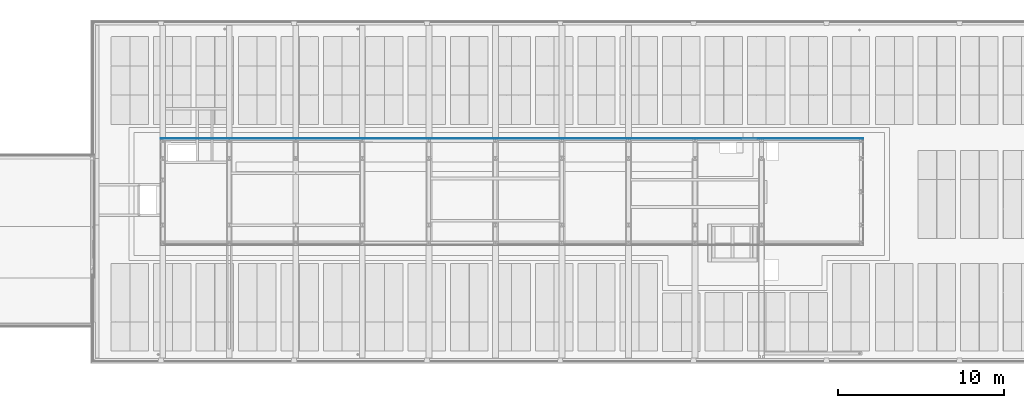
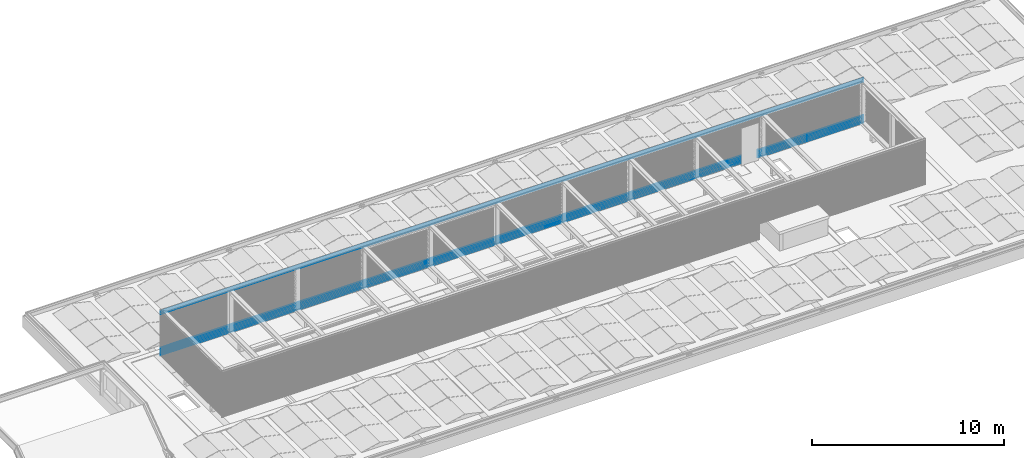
# One storey, part 49 of 63: 9 building element parts, 1 opening, 1 element without a shape of its own.
"""IFC2X3 building model written with IfcOpenShell, lengths in millimetres."""

from ifc_helpers import new_model, entity, si_unit, converted_unit, derived_unit, money_unit, direction, frame, origin_with_axes, place, context, subcontext, project, spatial, faceted_brep, material, type_object, element, aggregate, save


model = new_model("IFC2X3")

# Units and contexts
model_context = context("Model", 3, precision=0.01, world=origin_with_axes(), true_north=direction((0.0, 1.0)))
body_context = subcontext(model_context, "Body", "Model", "MODEL_VIEW")
ifc_project = project(units=[si_unit("LENGTHUNIT", "METRE", prefix="MILLI"), si_unit("AREAUNIT", "SQUARE_METRE"), si_unit("VOLUMEUNIT", "CUBIC_METRE"), converted_unit("PLANEANGLEUNIT", "DEGREE", entity("IfcPlaneAngleMeasure", 0.0174532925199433), si_unit("PLANEANGLEUNIT", "RADIAN"), dimensions=[0, 0, 0, 0, 0, 0, 0]), money_unit("EUR"), converted_unit("TIMEUNIT", "Year", entity("IfcTimeMeasure", 31557600.0), si_unit("TIMEUNIT", "SECOND"), dimensions=[0, 0, 1, 0, 0, 0, 0]), si_unit("MASSUNIT", "GRAM", prefix="KILO"), si_unit("THERMODYNAMICTEMPERATUREUNIT", "DEGREE_CELSIUS"), si_unit("LUMINOUSINTENSITYUNIT", "LUMEN"), si_unit("ENERGYUNIT", "JOULE", prefix="MEGA"), derived_unit("THERMALCONDUCTANCEUNIT", [(si_unit("POWERUNIT", "WATT"), 1), (si_unit("LENGTHUNIT", "METRE"), -1), (si_unit("THERMODYNAMICTEMPERATUREUNIT", "KELVIN"), -1)]), derived_unit("SPECIFICHEATCAPACITYUNIT", [(si_unit("ENERGYUNIT", "JOULE"), 1), (si_unit("MASSUNIT", "GRAM", prefix="KILO"), -1), (si_unit("THERMODYNAMICTEMPERATUREUNIT", "KELVIN"), -1)]), derived_unit("MASSDENSITYUNIT", [(si_unit("MASSUNIT", "GRAM", prefix="KILO"), 1), (si_unit("VOLUMEUNIT", "CUBIC_METRE"), -1)])], contexts=[model_context])

# Site, building, storey
site_placement = place(None, origin_with_axes())
site = spatial("IfcSite", under=ifc_project, at=site_placement, Name="<site naam>", CompositionType="ELEMENT")
building_placement = place(site_placement, origin_with_axes())
building = spatial("IfcBuilding", under=site, at=building_placement, Name="<Naam gebouw>", CompositionType="ELEMENT")
storey_placement = place(building_placement, frame((0.0, 0.0, 12770.0), z_axis=(0.0, 0.0, 1.0), x_axis=(1.0, 0.0, 0.0)))
storey = spatial("IfcBuildingStorey", under=building, at=storey_placement, Name="04 4e verdieping", CompositionType="ELEMENT", Elevation=12770.0)

# Wall, opening, building element parts
wall_type = type_object("IfcWallType", Name="Gevelbeplating golf 18 x 2900", PredefinedType="NOTDEFINED")
wall_placement = place(storey_placement, frame((58128.00007858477, 13218.00009009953, 299.9552842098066), z_axis=(0.0, 0.0, 1.0), x_axis=(-1.0, 0.0, 0.0)))
wall = element("IfcWall", 1, at=wall_placement, inside=storey, type_object=wall_type, Name="47_Binnenwand_Gevelbeplating")
opening_placement = place(wall_placement, frame((6856.073474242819, 0.0, -120.0392154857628), z_axis=(0.0, 0.0, 1.0), x_axis=(1.0, 0.0, 0.0)))
element("IfcOpeningElement", 2, at=opening_placement, cuts=wall, Name="47_BU-F-02_305", context=body_context, shape_type="Brep", body=[
    faceted_brep([(517.000000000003, 19.00000000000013, 2367.000000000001), (517.000000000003, 19.00000000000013, 0.0), (-517.000000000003, 19.00000000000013, 0.0), (-517.000000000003, 19.00000000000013, 2367.000000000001), (517.000000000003, -1.000078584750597, 2367.000000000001), (517.000000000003, -1.000078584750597, 0.0), (-517.000000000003, -1.000078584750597, 0.0), (-517.000000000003, -1.000078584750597, 2367.000000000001)], [[[0, 1, 2, 3]], [[4, 5, 1, 0]], [[5, 6, 2, 1]], [[6, 7, 3, 2]], [[7, 4, 0, 3]], [[6, 5, 4, 7]]]),
])
ifc_material = material(Name="gevelafwerking type 3 - Aluminium RAL1036")
building_element_part_1_placement = place(wall_placement, origin_with_axes())
building_element_part_1 = element("IfcBuildingElementPart", 3, at=building_element_part_1_placement, material=ifc_material, Name="gevelafwerking type 3 - Aluminium RAL1036", context=body_context, shape_type="Brep", body=[
    faceted_brep([(18238.00007858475, 15.6291890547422, 2670.6844886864), (18238.00007858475, 10.1433027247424, 2677.962412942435), (18018.00007858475, 10.1433027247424, 2677.962412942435), (18018.00007858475, 15.6291890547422, 2670.6844886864), (15.6291890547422, 15.6291890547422, 2670.6844886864), (9.041509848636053, 9.04150984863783, 2679.424121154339), (42247.79070176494, 9.041509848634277, 2679.424121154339), (42247.44499411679, 9.398060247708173, 2678.951098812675), (42241.45604468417, 15.62918905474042, 2670.6844886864), (18238.00007858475, 17.99992617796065, 2659.999994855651), (18238.00007858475, 16.99992379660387, 2659.999994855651), (18238.00007858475, 14.77512327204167, 2670.365674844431), (18238.00007858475, 10.1433027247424, 2676.759003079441), (18018.00007858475, 10.1433027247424, 2676.759003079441), (18018.00007858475, 14.77512327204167, 2670.365674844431), (18018.00007858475, 16.99992379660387, 2659.999994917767), (18018.00007858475, 17.99992617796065, 2659.999994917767), (17.9999261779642, 17.99992617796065, 2659.999999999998), (15.6291890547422, 14.54414983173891, 2670.6844886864), (9.398060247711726, 8.555178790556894, 2678.951098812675), (9.041509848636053, 8.209465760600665, 2679.424121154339), (42253.7428684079, 3.340061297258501, 2687.568198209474), (3.116404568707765, 3.116404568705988, 2687.887674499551), (42253.8119968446, 3.116404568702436, 2687.887674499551), (42253.7428684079, 2.257284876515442, 2687.568198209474), (42247.44499411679, 8.555178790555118, 2678.951098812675), (42241.22507213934, 14.77512327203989, 2670.365674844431), (42241.22507213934, 15.69992934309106, 2670.365674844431), (42239.00027300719, 17.99992617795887, 2659.99998807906), (42239.00027300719, 16.99992379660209, 2659.99998807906), (15.69992934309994, 14.77512327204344, 2670.365674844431), (17.9999261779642, 16.99992379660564, 2659.999999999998), (3.340061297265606, 2.257284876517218, 2687.568198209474), (3.116404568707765, 2.188152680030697, 2687.887674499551), (42256.00025512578, 0.999926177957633, 2698.000001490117), (0.9999261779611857, 0.9999261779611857, 2697.999999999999), (42256.00025512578, -7.382204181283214e-05, 2698.000001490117), (0.9999261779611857, -7.382203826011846e-05, 2697.999999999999)], [[[0, 1, 2, 3, 4, 5, 6, 7, 8]], [[1, 0, 9, 10, 11, 12]], [[2, 1, 12, 13]], [[3, 2, 13, 14, 15, 16]], [[3, 16, 17, 4]], [[4, 18, 19, 20, 5]], [[21, 6, 5, 22, 23]], [[24, 25, 7, 6, 21]], [[25, 26, 27, 8, 7]], [[9, 0, 8, 27, 28]], [[10, 9, 28, 29]], [[11, 10, 29, 26]], [[12, 11, 26, 25, 19, 18, 30, 14, 13]], [[15, 14, 30, 31]], [[16, 15, 31, 17]], [[17, 31, 30, 18, 4]], [[24, 32, 20, 19, 25]], [[5, 20, 32, 33, 22]], [[34, 23, 22, 35]], [[36, 24, 21, 23, 34]], [[27, 26, 29, 28]], [[36, 37, 33, 32, 24]], [[35, 22, 33, 37]], [[36, 34, 35, 37]]]),
])
building_element_part_2_placement = place(wall_placement, origin_with_axes())
building_element_part_2 = element("IfcBuildingElementPart", 4, at=building_element_part_2_placement, material=ifc_material, Name="gevelafwerking type 3 - Aluminium RAL1036", context=body_context, shape_type="Brep", body=[
    faceted_brep([(18238.00007858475, 15.62918429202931, 2822.684488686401), (18238.00007858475, 10.1433027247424, 2829.962406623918), (18018.00007858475, 10.1433027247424, 2829.962406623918), (18018.00007858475, 15.62918429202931, 2822.684488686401), (15.62918429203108, 15.62918429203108, 2822.684488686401), (9.041505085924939, 9.041505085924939, 2831.42412115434), (42247.79070118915, 9.041505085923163, 2831.42412115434), (42247.44499411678, 9.398047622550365, 2830.951109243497), (42241.4560371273, 15.62918429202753, 2822.684488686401), (18238.00007858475, 17.99992141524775, 2811.999999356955), (18238.00007858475, 16.99991903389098, 2811.999999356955), (18238.00007858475, 14.77511850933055, 2822.365685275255), (18238.00007858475, 10.1433027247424, 2828.759006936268), (18018.00007858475, 10.1433027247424, 2828.759006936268), (18018.00007858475, 14.77511850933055, 2822.365685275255), (18018.00007858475, 16.99991903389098, 2811.999999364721), (18018.00007858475, 17.99992141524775, 2811.999999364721), (17.99992141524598, 17.99992141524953, 2812.0), (15.62918429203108, 14.54415262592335, 2822.684488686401), (9.398047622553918, 8.55517402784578, 2830.951109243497), (9.041505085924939, 8.209468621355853, 2831.42412115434), (42253.74291629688, 3.340049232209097, 2839.568208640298), (3.11639980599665, 3.116399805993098, 2839.88767449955), (42253.81204554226, 3.116399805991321, 2839.88767449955), (42253.74291629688, 2.257280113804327, 2839.568208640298), (42247.44499411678, 8.555174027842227, 2830.951109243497), (42241.22507213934, 15.69992226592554, 2822.365685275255), (42241.22507213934, 14.77511850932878, 2822.365685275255), (42239.00027300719, 17.99992141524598, 2811.999998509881), (42239.00027300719, 16.9999190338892, 2811.999998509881), (15.69992226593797, 14.77511850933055, 2822.365685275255), (17.99992141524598, 16.99991903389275, 2812.0), (3.340049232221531, 2.257280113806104, 2839.568208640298), (3.11639980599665, 2.188150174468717, 2839.88767449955), (42256.00025512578, 0.9999214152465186, 2850.00001192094), (0.9999214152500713, 0.9999214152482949, 2850.0), (42256.00025512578, -7.858475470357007e-05, 2850.00001192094), (0.9999214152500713, -7.858475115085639e-05, 2850.0)], [[[0, 1, 2, 3, 4, 5, 6, 7, 8]], [[1, 0, 9, 10, 11, 12]], [[2, 1, 12, 13]], [[3, 2, 13, 14, 15, 16]], [[3, 16, 17, 4]], [[4, 18, 19, 20, 5]], [[21, 6, 5, 22, 23]], [[7, 6, 21, 24, 25]], [[26, 8, 7, 25, 27]], [[9, 0, 8, 26, 28]], [[10, 9, 28, 29]], [[11, 10, 29, 27]], [[12, 11, 27, 25, 19, 18, 30, 14, 13]], [[15, 14, 30, 31]], [[16, 15, 31, 17]], [[17, 31, 30, 18, 4]], [[24, 32, 20, 19, 25]], [[5, 20, 32, 33, 22]], [[34, 23, 22, 35]], [[21, 23, 34, 36, 24]], [[29, 28, 26, 27]], [[36, 37, 33, 32, 24]], [[35, 22, 33, 37]], [[36, 34, 35, 37]]]),
])
building_element_part_3_placement = place(wall_placement, origin_with_axes())
building_element_part_3 = element("IfcBuildingElementPart", 5, at=building_element_part_3_placement, material=ifc_material, Name="gevelafwerking type 3 - Aluminium RAL1036", context=body_context, shape_type="Brep", body=[
    faceted_brep([(18132.75007858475, 14.7751970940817, 65.634296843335), (18132.75007858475, 10.14329121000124, 59.24085081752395), (18123.25007858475, 10.14329121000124, 59.24085081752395), (18123.25007858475, 14.7751970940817, 65.634296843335), (15.69999688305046, 14.7751970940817, 65.634296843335), (15.62926287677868, 14.5442457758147, 65.31551131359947), (9.398112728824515, 8.555252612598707, 57.04887287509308), (42247.44490768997, 8.555252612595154, 57.04887287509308), (42241.22498571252, 14.77519709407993, 65.634296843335), (18132.75007858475, 16.9999976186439, 75.99999296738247), (18132.75007858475, 17.99999999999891, 75.99999296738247), (18132.75007858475, 15.62926287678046, 65.31551131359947), (18132.75007858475, 10.14329121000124, 58.03747384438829), (18123.25007858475, 10.14329121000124, 58.03747384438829), (18123.25007858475, 15.62926287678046, 65.31551131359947), (18123.25007858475, 17.99999999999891, 75.99999297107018), (18123.25007858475, 16.9999976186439, 75.99999297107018), (18.00000000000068, 16.9999976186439, 76.00000000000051), (15.62926287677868, 15.62926287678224, 65.31551131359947), (18.00000000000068, 18.00000000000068, 76.00000000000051), (9.041583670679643, 9.04158367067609, 56.57587884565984), (9.041583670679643, 8.209558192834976, 56.57587884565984), (3.340115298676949, 2.257358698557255, 48.43177347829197), (42253.74282987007, 2.257358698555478, 48.43177347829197), (42241.45593774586, 15.62926287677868, 65.31551131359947), (42241.22498571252, 15.69999688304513, 65.634296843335), (42247.44490768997, 9.398112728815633, 57.04887287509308), (42239.00018658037, 16.99999761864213, 75.99998360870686), (42239.00018658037, 17.99999999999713, 75.99998360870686), (42247.79060169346, 9.041583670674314, 56.57587884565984), (3.116478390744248, 3.116478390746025, 48.11232550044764), (3.116478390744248, 2.188226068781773, 48.11232550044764), (0.9999999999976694, 0.0, 38.00000000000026), (42256.00016869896, 0.0, 38.00001341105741), (42253.74282987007, 3.340115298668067, 48.43177347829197), (42253.81195553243, 3.116478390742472, 48.11232550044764), (0.9999999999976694, 0.9999999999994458, 38.00000000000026), (42256.00016869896, 0.9999999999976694, 38.00001341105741)], [[[0, 1, 2, 3, 4, 5, 6, 7, 8]], [[1, 0, 9, 10, 11, 12]], [[2, 1, 12, 13]], [[3, 2, 13, 14, 15, 16]], [[3, 16, 17, 4]], [[18, 5, 4, 17, 19]], [[20, 21, 6, 5, 18]], [[6, 21, 22, 23, 7]], [[24, 25, 8, 7, 26]], [[9, 0, 8, 27]], [[10, 9, 27, 28]], [[11, 10, 28, 25, 24]], [[12, 11, 24, 26, 29, 20, 18, 14, 13]], [[15, 14, 18, 19]], [[16, 15, 19, 17]], [[30, 31, 22, 21, 20]], [[23, 22, 31, 32, 33]], [[29, 26, 7, 23, 34]], [[25, 28, 27, 8]], [[35, 30, 20, 29, 34]], [[30, 36, 32, 31]], [[33, 32, 36, 37]], [[35, 34, 23, 33, 37]], [[37, 36, 30, 35]]]),
])
building_element_part_4_placement = place(wall_placement, origin_with_axes())
building_element_part_4 = element("IfcBuildingElementPart", 6, at=building_element_part_4_placement, material=ifc_material, Name="gevelafwerking type 3 - Aluminium RAL1036", context=body_context, shape_type="Brep", body=[
    faceted_brep([(18132.75007858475, 14.77519471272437, 141.6343236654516), (18132.75007858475, 10.14329121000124, 135.2408809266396), (18123.25007858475, 10.14329121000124, 135.2408809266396), (18123.25007858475, 14.77519471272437, 141.6343236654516), (15.70000045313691, 14.77519471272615, 141.6343236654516), (15.62926049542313, 14.54422396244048, 141.3155113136), (9.398130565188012, 8.555250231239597, 133.0488996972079), (42247.44490768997, 8.555250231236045, 133.0488996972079), (42241.22498571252, 14.77519471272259, 141.6343236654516), (18132.75007858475, 16.99999523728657, 152.0000044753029), (18132.75007858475, 17.99999761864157, 152.0000044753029), (18132.75007858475, 15.62926049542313, 141.3155113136), (18132.75007858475, 10.14329121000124, 134.0374770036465), (18123.25007858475, 10.14329121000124, 134.0374770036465), (18123.25007858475, 15.62926049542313, 141.3155113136), (18123.25007858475, 17.99999761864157, 152.0000044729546), (18123.25007858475, 16.99999523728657, 152.0000044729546), (17.99999761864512, 16.99999523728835, 151.9999999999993), (15.62926049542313, 15.6292604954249, 141.3155113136), (17.99999761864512, 17.99999761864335, 151.9999999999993), (9.041581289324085, 9.041581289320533, 132.5758788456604), (9.041581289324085, 8.209536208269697, 132.5758788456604), (3.340131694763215, 2.257356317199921, 124.4318003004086), (42253.74282519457, 2.257356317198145, 124.4318003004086), (42241.4559571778, 15.62926049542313, 141.3155113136), (42241.22498571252, 15.70000045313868, 141.6343236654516), (42247.44490768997, 9.398130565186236, 133.0488996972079), (42239.00018658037, 16.99999523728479, 152.0000104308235), (42239.00018658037, 17.99999761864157, 152.0000104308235), (42247.79061662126, 9.041581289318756, 132.5758788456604), (3.116476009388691, 3.116476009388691, 124.1123255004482), (3.116476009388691, 2.188227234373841, 124.1123255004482), (0.9999976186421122, -2.381355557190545e-06, 114.0000000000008), (42256.00016869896, -2.381359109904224e-06, 113.9999970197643), (42253.74282519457, 3.340131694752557, 124.4318003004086), (42253.8119519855, 3.116476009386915, 124.1123255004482), (0.9999976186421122, 0.9999976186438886, 114.0000000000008), (42256.00016869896, 0.9999976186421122, 113.9999970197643)], [[[0, 1, 2, 3, 4, 5, 6, 7, 8]], [[1, 0, 9, 10, 11, 12]], [[2, 1, 12, 13]], [[3, 2, 13, 14, 15, 16]], [[3, 16, 17, 4]], [[18, 5, 4, 17, 19]], [[20, 21, 6, 5, 18]], [[6, 21, 22, 23, 7]], [[24, 25, 8, 7, 26]], [[9, 0, 8, 27]], [[10, 9, 27, 28]], [[11, 10, 28, 25, 24]], [[12, 11, 24, 26, 29, 20, 18, 14, 13]], [[15, 14, 18, 19]], [[16, 15, 19, 17]], [[30, 31, 22, 21, 20]], [[23, 22, 31, 32, 33]], [[29, 26, 7, 23, 34]], [[25, 28, 27, 8]], [[35, 30, 20, 29, 34]], [[30, 36, 32, 31]], [[33, 32, 36, 37]], [[35, 34, 23, 33, 37]], [[37, 36, 30, 35]]]),
])
building_element_part_5_placement = place(wall_placement, origin_with_axes())
building_element_part_5 = element("IfcBuildingElementPart", 7, at=building_element_part_5_placement, material=ifc_material, Name="gevelafwerking type 3 - Aluminium RAL1036", context=body_context, shape_type="Brep", body=[
    faceted_brep([(18132.75007858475, 14.77519233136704, 217.6343072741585), (18132.75007858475, 10.14329121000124, 211.2408678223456), (18123.25007858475, 10.14329121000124, 211.2408678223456), (18123.25007858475, 14.77519233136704, 217.6343072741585), (15.6999944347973, 14.77519233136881, 217.6343072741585), (15.62925811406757, 14.54423345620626, 217.3155113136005), (9.398115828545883, 8.55524784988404, 209.0488833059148), (42247.44490768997, 8.555247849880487, 209.0488833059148), (42241.22498571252, 14.77519233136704, 217.6343072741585), (18132.75007858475, 16.99999285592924, 227.9999974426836), (18132.75007858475, 17.99999523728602, 227.9999974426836), (18132.75007858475, 15.62925811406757, 217.3155113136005), (18132.75007858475, 10.14329121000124, 210.037480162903), (18123.25007858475, 10.14329121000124, 210.037480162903), (18123.25007858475, 15.62925811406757, 217.3155113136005), (18123.25007858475, 17.99999523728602, 227.9999974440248), (18123.25007858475, 16.99999285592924, 227.9999974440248), (17.99999523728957, 16.99999285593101, 227.9999999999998), (15.62925811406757, 15.62925811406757, 217.3155113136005), (17.99999523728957, 17.99999523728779, 227.9999999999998), (9.041578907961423, 9.041578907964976, 208.5758788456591), (9.041578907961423, 8.209545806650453, 208.5758788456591), (3.340117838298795, 2.257353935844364, 200.4317839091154), (42253.74282519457, 2.257353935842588, 200.4317839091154), (42241.45594530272, 15.62925811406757, 217.3155113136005), (42241.22498571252, 15.69999443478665, 217.6343072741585), (42247.44490768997, 9.398115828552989, 209.0488833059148), (42239.00018658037, 16.99999285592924, 227.9999940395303), (42239.00018658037, 17.99999523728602, 227.9999940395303), (42247.79060464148, 9.041578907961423, 208.5758788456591), (3.116473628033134, 3.116473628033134, 200.1123255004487), (3.116473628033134, 2.188228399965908, 200.1123255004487), (0.999995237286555, -4.76271289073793e-06, 189.9999999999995), (42256.00016402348, -4.76271466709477e-06, 189.9999806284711), (42253.74282519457, 3.340117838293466, 200.4317839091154), (42253.8119437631, 3.116473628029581, 200.1123255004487), (0.999995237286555, 0.9999952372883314, 189.9999999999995), (42256.00016402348, 0.9999952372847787, 189.9999806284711)], [[[0, 1, 2, 3, 4, 5, 6, 7, 8]], [[1, 0, 9, 10, 11, 12]], [[2, 1, 12, 13]], [[3, 2, 13, 14, 15, 16]], [[3, 16, 17, 4]], [[18, 5, 4, 17, 19]], [[20, 21, 6, 5, 18]], [[6, 21, 22, 23, 7]], [[24, 25, 8, 7, 26]], [[9, 0, 8, 27]], [[10, 9, 27, 28]], [[11, 10, 28, 25, 24]], [[12, 11, 24, 26, 29, 20, 18, 14, 13]], [[15, 14, 18, 19]], [[16, 15, 19, 17]], [[30, 31, 22, 21, 20]], [[23, 22, 31, 32, 33]], [[29, 26, 7, 23, 34]], [[25, 28, 27, 8]], [[35, 30, 20, 29, 34]], [[30, 36, 32, 31]], [[33, 32, 36, 37]], [[35, 34, 23, 33, 37]], [[37, 36, 30, 35]]]),
])
building_element_part_6_placement = place(wall_placement, origin_with_axes())
building_element_part_6 = element("IfcBuildingElementPart", 8, at=building_element_part_6_placement, material=ifc_material, Name="gevelafwerking type 3 - Aluminium RAL1036", context=body_context, shape_type="Brep", body=[
    faceted_brep([(18238.00007858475, 14.77518995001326, 293.6343340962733), (18238.00007858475, 10.1433027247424, 287.2409160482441), (18018.00007858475, 10.1433027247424, 287.2409160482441), (18018.00007858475, 14.77518995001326, 293.6343340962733), (15.69999800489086, 14.77518995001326, 293.6343340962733), (15.62925573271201, 14.54421164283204, 293.3155113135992), (9.398133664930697, 8.555245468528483, 285.0489101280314), (42247.44495090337, 8.555245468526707, 285.0489101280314), (42241.22498571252, 14.77518995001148, 293.6343340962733), (18238.00007858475, 16.99999047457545, 304.0000090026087), (18238.00007858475, 17.99999285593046, 304.0000090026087), (18238.00007858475, 15.62925573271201, 293.3155113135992), (18238.00007858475, 10.1433027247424, 286.0374985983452), (18018.00007858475, 10.1433027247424, 286.0374985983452), (18018.00007858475, 15.62925573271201, 293.3155113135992), (18018.00007858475, 17.99999285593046, 304.0000088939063), (18018.00007858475, 16.99999047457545, 304.0000088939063), (17.99999285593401, 16.99999047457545, 304.0000000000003), (17.99999285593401, 17.99999285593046, 304.0000000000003), (15.62925573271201, 15.62925573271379, 293.3155113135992), (9.041576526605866, 9.041576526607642, 284.5758788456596), (9.041576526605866, 8.209523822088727, 284.5758788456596), (3.340134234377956, 2.257351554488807, 276.4318107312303), (42253.74282519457, 2.25735155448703, 276.4318107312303), (42247.44495090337, 9.398133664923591, 285.0489101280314), (42241.45596633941, 15.62925573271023, 293.3155113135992), (42241.22498571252, 15.69999800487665, 293.6343340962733), (42239.00018658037, 16.99999047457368, 304.0000208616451), (42239.00018658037, 17.99999285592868, 304.0000208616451), (42247.79066508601, 9.041576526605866, 284.5758788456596), (3.116471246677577, 3.116471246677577, 276.1123255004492), (3.116471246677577, 2.188220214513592, 276.1123255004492), (42256.00016869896, -7.144070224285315e-06, 266.0000074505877), (0.9999928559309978, -7.144068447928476e-06, 266.0), (42253.74282519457, 3.34013423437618, 276.4318107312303), (42253.81195424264, 3.116471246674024, 276.1123255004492), (0.9999928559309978, 0.9999928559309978, 266.0), (42256.00016869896, 0.9999928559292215, 266.0000074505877)], [[[0, 1, 2, 3, 4, 5, 6, 7, 8]], [[1, 0, 9, 10, 11, 12]], [[2, 1, 12, 13]], [[3, 2, 13, 14, 15, 16]], [[3, 16, 17, 4]], [[18, 19, 5, 4, 17]], [[19, 20, 21, 6, 5]], [[7, 6, 21, 22, 23]], [[24, 25, 26, 8, 7]], [[9, 0, 8, 27]], [[10, 9, 27, 28]], [[11, 10, 28, 26, 25]], [[12, 11, 25, 24, 29, 20, 19, 14, 13]], [[15, 14, 19, 18]], [[16, 15, 18, 17]], [[20, 30, 31, 22, 21]], [[32, 23, 22, 31, 33]], [[34, 29, 24, 7, 23]], [[8, 26, 28, 27]], [[34, 35, 30, 20, 29]], [[31, 30, 36, 33]], [[37, 35, 34, 23, 32]], [[37, 32, 33, 36]], [[35, 37, 36, 30]]]),
])
building_element_part_7_placement = place(wall_placement, origin_with_axes())
building_element_part_7 = element("IfcBuildingElementPart", 9, at=building_element_part_7_placement, material=ifc_material, Name="gevelafwerking type 3 - Aluminium RAL1036", context=body_context, shape_type="Brep", body=[
    faceted_brep([(18238.00007858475, 14.7751875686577, 445.634301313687), (18238.00007858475, 10.1433027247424, 439.2408865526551), (18018.00007858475, 10.1433027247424, 439.2408865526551), (18018.00007858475, 14.7751875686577, 445.634301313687), (15.69998834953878, 14.7751875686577, 445.634301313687), (15.62925335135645, 14.5442330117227, 445.3155113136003), (9.398106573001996, 8.555243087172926, 437.0488773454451), (42247.44495090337, 8.55524308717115, 437.0488773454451), (42241.22498571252, 14.77518756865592, 445.634301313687), (18238.00007858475, 16.99998809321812, 455.9999948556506), (18238.00007858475, 17.9999904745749, 455.9999948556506), (18238.00007858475, 15.62925335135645, 445.3155113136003), (18238.00007858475, 10.1433027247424, 438.0375017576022), (18018.00007858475, 10.1433027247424, 438.0375017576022), (18018.00007858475, 15.62925335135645, 445.3155113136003), (18018.00007858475, 17.9999904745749, 455.9999949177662), (18018.00007858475, 16.99998809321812, 455.9999949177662), (17.99999047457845, 16.9999880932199, 455.9999999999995), (17.99999047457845, 17.9999904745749, 455.9999999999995), (15.62925335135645, 15.62925335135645, 445.3155113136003), (9.041574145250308, 9.041574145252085, 436.5758788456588), (9.041574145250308, 8.209545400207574, 436.5758788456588), (3.340108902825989, 2.25734917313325, 428.431777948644), (42253.74282987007, 2.257349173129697, 428.431777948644), (42247.44495090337, 9.398106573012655, 437.0488773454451), (42241.45594258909, 15.62925335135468, 445.3155113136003), (42241.22498571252, 15.69998834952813, 445.634301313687), (42239.00018658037, 16.99998809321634, 455.9999880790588), (42239.00018658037, 17.99999047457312, 455.9999880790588), (42247.79064580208, 9.041574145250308, 436.5758788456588), (3.11646886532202, 3.116468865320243, 428.1123255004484), (3.11646886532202, 2.188215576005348, 428.1123255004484), (42256.00016869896, -9.5254275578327e-06, 418.0000178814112), (0.9999904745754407, -9.525424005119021e-06, 417.9999999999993), (42253.74282987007, 3.340108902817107, 428.431777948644), (42253.81195649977, 3.116468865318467, 428.1123255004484), (0.9999904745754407, 0.9999904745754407, 417.9999999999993), (42256.00016869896, 0.9999904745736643, 418.0000178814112)], [[[0, 1, 2, 3, 4, 5, 6, 7, 8]], [[1, 0, 9, 10, 11, 12]], [[2, 1, 12, 13]], [[3, 2, 13, 14, 15, 16]], [[3, 16, 17, 4]], [[18, 19, 5, 4, 17]], [[19, 20, 21, 6, 5]], [[7, 6, 21, 22, 23]], [[24, 25, 26, 8, 7]], [[9, 0, 8, 27]], [[10, 9, 27, 28]], [[11, 10, 28, 26, 25]], [[12, 11, 25, 24, 29, 20, 19, 14, 13]], [[15, 14, 19, 18]], [[16, 15, 18, 17]], [[20, 30, 31, 22, 21]], [[32, 23, 22, 31, 33]], [[34, 29, 24, 7, 23]], [[8, 26, 28, 27]], [[34, 35, 30, 20, 29]], [[31, 30, 36, 33]], [[37, 35, 34, 23, 32]], [[37, 32, 33, 36]], [[35, 37, 36, 30]]]),
])
building_element_part_8_placement = place(wall_placement, origin_with_axes())
building_element_part_8 = element("IfcBuildingElementPart", 10, at=building_element_part_8_placement, material=ifc_material, Name="gevelafwerking type 3 - Aluminium RAL1036", context=body_context, shape_type="Brep", body=[
    faceted_brep([(18238.00007858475, 14.77518518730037, 521.6343281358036), (18238.00007858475, 10.1433027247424, 515.2409166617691), (18018.00007858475, 10.1433027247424, 515.2409166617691), (18018.00007858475, 14.77518518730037, 521.6343281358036), (15.69999191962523, 14.77518518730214, 521.6343281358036), (15.6292509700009, 14.5442111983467, 521.315511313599), (9.398124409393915, 8.555240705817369, 513.0489041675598), (42247.44495090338, 8.555240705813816, 513.0489041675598), (42241.22498571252, 14.77518518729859, 521.6343281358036), (18238.00007858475, 16.99998571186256, 532.0000064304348), (18238.00007858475, 17.99998809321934, 532.0000064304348), (18238.00007858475, 15.6292509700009, 521.315511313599), (18238.00007858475, 10.1433027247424, 514.0375049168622), (18018.00007858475, 10.1433027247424, 514.0375049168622), (18018.00007858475, 15.6292509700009, 521.315511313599), (18018.00007858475, 17.99998809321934, 532.0000063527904), (18018.00007858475, 16.99998571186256, 532.0000063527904), (17.9999880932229, 16.99998571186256, 532.0), (17.9999880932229, 17.99998809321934, 532.0), (15.6292509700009, 15.6292509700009, 521.315511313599), (9.041571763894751, 9.041571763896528, 512.5758788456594), (9.041571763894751, 8.209523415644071, 512.5758788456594), (3.340125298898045, 2.257346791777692, 504.4318047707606), (42253.74282519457, 2.25734679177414, 504.4318047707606), (42247.44495090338, 9.398124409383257, 513.0489041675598), (42241.45596202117, 15.62925096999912, 521.315511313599), (42241.22498571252, 15.69999191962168, 521.6343281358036), (42239.00018658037, 16.99998571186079, 532.0000149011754), (42239.00018658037, 17.99998809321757, 532.0000149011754), (42247.79066072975, 9.041571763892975, 512.5758788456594), (3.116466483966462, 3.116466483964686, 504.1123255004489), (3.116466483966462, 2.188216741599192, 504.1123255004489), (42256.00016869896, -1.190678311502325e-05, 494.0000014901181), (0.9999880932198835, -1.190678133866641e-05, 493.9999999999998), (42253.74282519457, 3.340125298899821, 504.4318047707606), (42253.81195295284, 3.11646648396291, 504.1123255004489), (0.9999880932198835, 0.9999880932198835, 493.9999999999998), (42256.00016869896, 0.9999880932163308, 494.0000014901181)], [[[0, 1, 2, 3, 4, 5, 6, 7, 8]], [[1, 0, 9, 10, 11, 12]], [[2, 1, 12, 13]], [[3, 2, 13, 14, 15, 16]], [[3, 16, 17, 4]], [[18, 19, 5, 4, 17]], [[19, 20, 21, 6, 5]], [[7, 6, 21, 22, 23]], [[24, 25, 26, 8, 7]], [[9, 0, 8, 27]], [[10, 9, 27, 28]], [[11, 10, 28, 26, 25]], [[12, 11, 25, 24, 29, 20, 19, 14, 13]], [[15, 14, 19, 18]], [[16, 15, 18, 17]], [[20, 30, 31, 22, 21]], [[32, 23, 22, 31, 33]], [[34, 29, 24, 7, 23]], [[8, 26, 28, 27]], [[34, 35, 30, 20, 29]], [[31, 30, 36, 33]], [[37, 35, 34, 23, 32]], [[37, 32, 33, 36]], [[35, 37, 36, 30]]]),
])
building_element_part_9_placement = place(wall_placement, origin_with_axes())
building_element_part_9 = element("IfcBuildingElementPart", 11, at=building_element_part_9_placement, material=ifc_material, Name="gevelafwerking type 3 - Aluminium RAL1036", context=body_context, shape_type="Brep", body=[
    faceted_brep([(18238.00007858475, 14.7751875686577, 369.6343177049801), (18238.00007858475, 10.1433027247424, 363.2409029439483), (18018.00007858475, 10.1433027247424, 363.2409029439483), (18018.00007858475, 14.7751875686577, 369.6343177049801), (15.69999198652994, 14.7751875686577, 369.6343177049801), (15.62925335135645, 14.54422113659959, 369.3155113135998), (9.398118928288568, 8.555243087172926, 361.0488937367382), (42247.44495090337, 8.55524308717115, 361.0488937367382), (42241.22498571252, 14.77518756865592, 369.6343177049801), (18238.00007858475, 16.99998809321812, 380.0000019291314), (18238.00007858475, 17.9999904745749, 380.0000019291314), (18238.00007858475, 15.62925335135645, 369.3155113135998), (18238.00007858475, 10.1433027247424, 362.0375017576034), (18018.00007858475, 10.1433027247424, 362.0375017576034), (18018.00007858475, 15.62925335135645, 369.3155113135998), (18018.00007858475, 17.9999904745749, 380.0000019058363), (18018.00007858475, 16.99998809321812, 380.0000019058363), (17.99999047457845, 16.9999880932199, 380.0000000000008), (17.99999047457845, 17.9999904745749, 380.0000000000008), (15.62925335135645, 15.62925335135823, 369.3155113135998), (9.041574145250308, 9.041574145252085, 360.5758788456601), (9.041574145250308, 8.209533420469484, 360.5758788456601), (3.340120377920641, 2.25734917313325, 352.4317943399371), (42253.74282519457, 2.257349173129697, 352.4317943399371), (42247.44495090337, 9.398118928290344, 361.0488937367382), (42241.45595446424, 15.62925335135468, 369.3155113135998), (42241.22498571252, 15.69999198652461, 369.6343177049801), (42239.00018658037, 16.99998809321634, 380.000004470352), (42239.00018658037, 17.99999047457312, 380.000004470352), (42247.79065310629, 9.041574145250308, 360.5758788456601), (3.11646886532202, 3.116468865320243, 352.1123255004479), (3.11646886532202, 2.188221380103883, 352.1123255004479), (42256.00016402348, -9.5254275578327e-06, 341.9999910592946), (0.9999904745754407, -9.525424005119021e-06, 342.0000000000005), (42253.74282519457, 3.340120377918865, 352.4317943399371), (42253.81194602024, 3.116468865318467, 352.1123255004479), (0.9999904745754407, 0.9999904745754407, 342.0000000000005), (42256.00016402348, 0.9999904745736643, 341.9999910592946)], [[[0, 1, 2, 3, 4, 5, 6, 7, 8]], [[1, 0, 9, 10, 11, 12]], [[2, 1, 12, 13]], [[3, 2, 13, 14, 15, 16]], [[3, 16, 17, 4]], [[18, 19, 5, 4, 17]], [[19, 20, 21, 6, 5]], [[7, 6, 21, 22, 23]], [[24, 25, 26, 8, 7]], [[9, 0, 8, 27]], [[10, 9, 27, 28]], [[11, 10, 28, 26, 25]], [[12, 11, 25, 24, 29, 20, 19, 14, 13]], [[15, 14, 19, 18]], [[16, 15, 18, 17]], [[20, 30, 31, 22, 21]], [[32, 23, 22, 31, 33]], [[34, 29, 24, 7, 23]], [[8, 26, 28, 27]], [[34, 35, 30, 20, 29]], [[31, 30, 36, 33]], [[37, 35, 34, 23, 32]], [[37, 32, 33, 36]], [[35, 37, 36, 30]]]),
])
aggregate(wall, [building_element_part_1, building_element_part_2, building_element_part_3, building_element_part_4, building_element_part_5, building_element_part_6, building_element_part_7, building_element_part_8, building_element_part_9])

save(model, "model.ifc")
